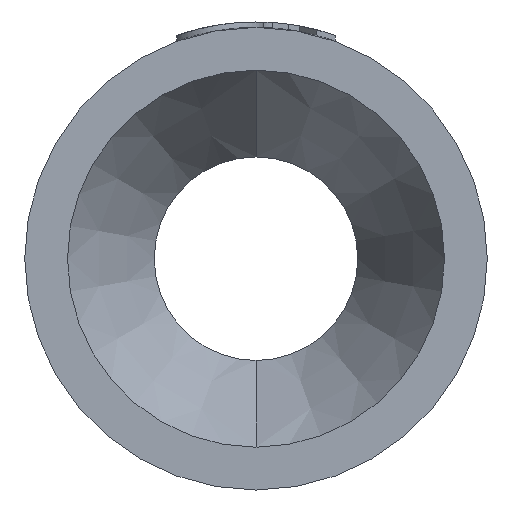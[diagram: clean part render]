
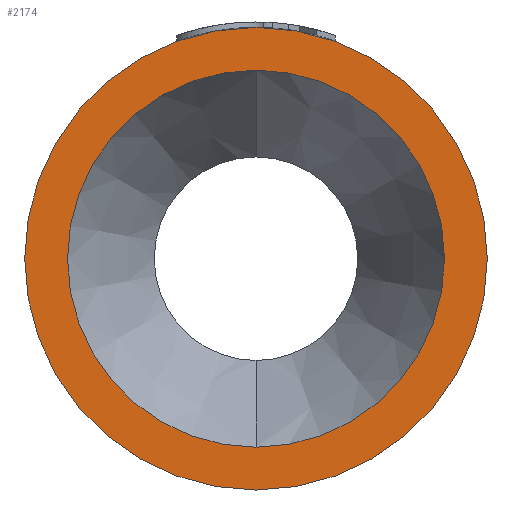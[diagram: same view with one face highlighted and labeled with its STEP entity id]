
A CAD part, left-side view. The second image highlights one B-rep face of the part: STEP entity #2174.
In plain terms, the highlighted planar face has unit normal (-1, 0, 0).
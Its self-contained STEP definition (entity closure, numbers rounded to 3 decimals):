
#24 = AXIS2_PLACEMENT_3D ( 'NONE', #2180, #2741, #2320 ) ;
#43 = CARTESIAN_POINT ( 'NONE',  ( 0., 0., 0. ) ) ;
#67 = DIRECTION ( 'NONE',  ( -1., 0., 0. ) ) ;
#79 = DIRECTION ( 'NONE',  ( 0., 0., 1. ) ) ;
#117 = AXIS2_PLACEMENT_3D ( 'NONE', #746, #2522, #2203 ) ;
#262 = VERTEX_POINT ( 'NONE', #2756 ) ;
#336 = AXIS2_PLACEMENT_3D ( 'NONE', #931, #912, #909 ) ;
#364 = AXIS2_PLACEMENT_3D ( 'NONE', #43, #67, #79 ) ;
#552 = EDGE_CURVE ( 'NONE', #1746, #3203, #988, .T. ) ;
#578 = EDGE_CURVE ( 'NONE', #262, #1298, #1486, .T. ) ;
#622 = CARTESIAN_POINT ( 'NONE',  ( 0., 0., -16.3 ) ) ;
#669 = CIRCLE ( 'NONE', #24, 20. ) ;
#746 = CARTESIAN_POINT ( 'NONE',  ( 0., 0., 0. ) ) ;
#820 = CIRCLE ( 'NONE', #117, 16.3 ) ;
#839 = FACE_OUTER_BOUND ( 'NONE', #1214, .T. ) ;
#864 = EDGE_CURVE ( 'NONE', #3203, #1746, #820, .T. ) ;
#909 = DIRECTION ( 'NONE',  ( 0., 0., 1. ) ) ;
#912 = DIRECTION ( 'NONE',  ( -1., 0., 0. ) ) ;
#931 = CARTESIAN_POINT ( 'NONE',  ( 0., 0., 0. ) ) ;
#988 = CIRCLE ( 'NONE', #364, 16.3 ) ;
#1087 = EDGE_CURVE ( 'NONE', #1298, #262, #669, .T. ) ;
#1214 = EDGE_LOOP ( 'NONE', ( #2807, #2377 ) ) ;
#1221 = FACE_BOUND ( 'NONE', #1793, .T. ) ;
#1298 = VERTEX_POINT ( 'NONE', #1988 ) ;
#1486 = CIRCLE ( 'NONE', #336, 20. ) ;
#1681 = CARTESIAN_POINT ( 'NONE',  ( 0., 0., 16.3 ) ) ;
#1746 = VERTEX_POINT ( 'NONE', #622 ) ;
#1793 = EDGE_LOOP ( 'NONE', ( #1845, #3118 ) ) ;
#1845 = ORIENTED_EDGE ( 'NONE', *, *, #864, .F. ) ;
#1856 = DIRECTION ( 'NONE',  ( 0., 0., -1. ) ) ;
#1867 = DIRECTION ( 'NONE',  ( 1., 0., 0. ) ) ;
#1875 = CARTESIAN_POINT ( 'NONE',  ( 0., 16.3, 0. ) ) ;
#1976 = PLANE ( 'NONE',  #3196 ) ;
#1988 = CARTESIAN_POINT ( 'NONE',  ( 0., 0., 20. ) ) ;
#2174 = ADVANCED_FACE ( 'NONE', ( #1221, #839 ), #1976, .F. ) ;
#2180 = CARTESIAN_POINT ( 'NONE',  ( 0., 0., 0. ) ) ;
#2203 = DIRECTION ( 'NONE',  ( 0., 0., 1. ) ) ;
#2320 = DIRECTION ( 'NONE',  ( 0., 0., 1. ) ) ;
#2377 = ORIENTED_EDGE ( 'NONE', *, *, #578, .T. ) ;
#2522 = DIRECTION ( 'NONE',  ( -1., 0., 0. ) ) ;
#2741 = DIRECTION ( 'NONE',  ( -1., 0., 0. ) ) ;
#2756 = CARTESIAN_POINT ( 'NONE',  ( 0., 0., -20. ) ) ;
#2807 = ORIENTED_EDGE ( 'NONE', *, *, #1087, .T. ) ;
#3118 = ORIENTED_EDGE ( 'NONE', *, *, #552, .F. ) ;
#3196 = AXIS2_PLACEMENT_3D ( 'NONE', #1875, #1867, #1856 ) ;
#3203 = VERTEX_POINT ( 'NONE', #1681 ) ;
